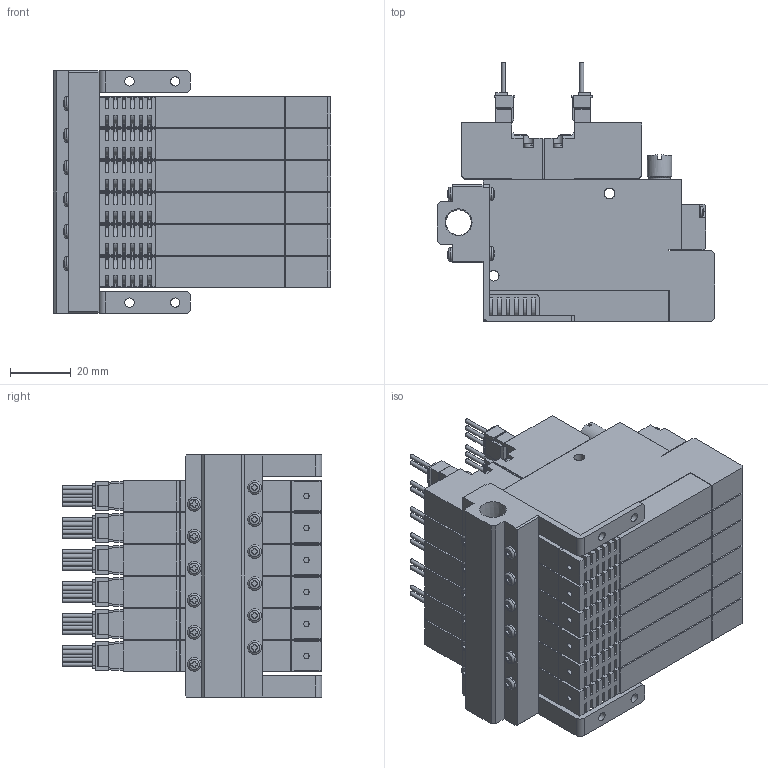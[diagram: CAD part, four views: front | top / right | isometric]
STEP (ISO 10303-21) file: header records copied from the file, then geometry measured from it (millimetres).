
FILE_DESCRIPTION(('STEP AP203'),'1');
FILE_NAME('5WS606_3D.stp','2024-09-04T23:08:40',(' '),(' '),'Spatial InterOp 3D',' ',' ');
FILE_SCHEMA(('CONFIG_CONTROL_DESIGN'));
Length unit declared in the file: millimetre
Products named in the file (5): BSC1M※※ZZ※5WS606; Solenoid valve W; Pressure Sensor ZZ; Unit-S; BaseMS60R
Assembly tree (19 placements, depth 2):
  BSC1M※※ZZ※5WS606
    Solenoid valve W  x6
    Pressure Sensor ZZ  x6
    Unit-S  x6
    BaseMS60R
Bounding box: 91 x 85.05 x 79.5 mm (x, y, z)
Volume: 273365.9 mm3; surface area: 113239.3 mm2
Topology: 19 solids, 19 shells, 2717 faces, 7431 edges, 4930 vertices
Faces by surface type: plane 1996, cylinder 633, cone 32, sphere 28, torus 28
Full cylindrical faces by diameter (mm): 1.4 x30, 1.8 x6, 2.5 x12, 3 x28, 3.5 x36, 4 x6, 4.134 x12, 4.5 x16, 5.5 x6, 7 x6, 7.7 x6, 8 x6, 8.422 x1
Entity records: 21936 total; most frequent: CARTESIAN_POINT 4883, DIRECTION 3418, ORIENTED_EDGE 3366, EDGE_CURVE 1683, VERTEX_POINT 1171, LINE 1158, VECTOR 1158, AXIS2_PLACEMENT_3D 1130
